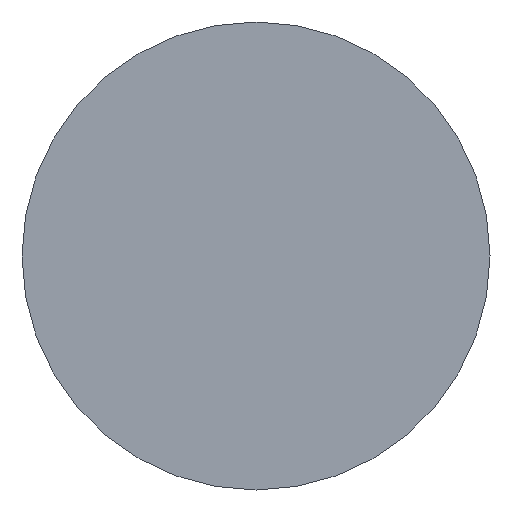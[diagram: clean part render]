
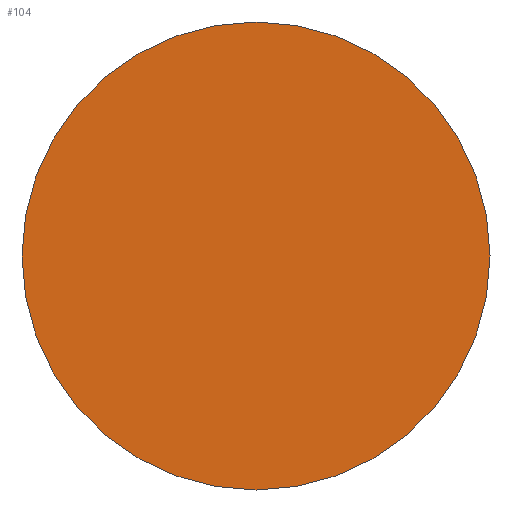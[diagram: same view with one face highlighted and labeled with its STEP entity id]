
A CAD part, front view. The second image highlights one B-rep face of the part: STEP entity #104.
In plain terms, the highlighted planar face has unit normal (0, -1, 0).
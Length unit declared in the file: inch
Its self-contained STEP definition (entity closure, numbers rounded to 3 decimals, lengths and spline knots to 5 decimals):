
#18=PLANE('',#134);
#30=FACE_OUTER_BOUND('',#37,.T.);
#37=EDGE_LOOP('',(#97));
#48=CIRCLE('',#133,0.22);
#58=VERTEX_POINT('',#223);
#71=EDGE_CURVE('',#58,#58,#48,.T.);
#97=ORIENTED_EDGE('',*,*,#71,.F.);
#104=ADVANCED_FACE('',(#30),#18,.F.);
#133=AXIS2_PLACEMENT_3D('',#225,#167,#168);
#134=AXIS2_PLACEMENT_3D('',#226,#169,#170);
#167=DIRECTION('center_axis',(0.,1.,0.));
#168=DIRECTION('ref_axis',(1.,0.,0.));
#169=DIRECTION('center_axis',(0.,1.,0.));
#170=DIRECTION('ref_axis',(1.,0.,0.));
#223=CARTESIAN_POINT('',(-0.22,0.,0.));
#225=CARTESIAN_POINT('Origin',(0.,0.,0.));
#226=CARTESIAN_POINT('Origin',(0.,0.,0.));
